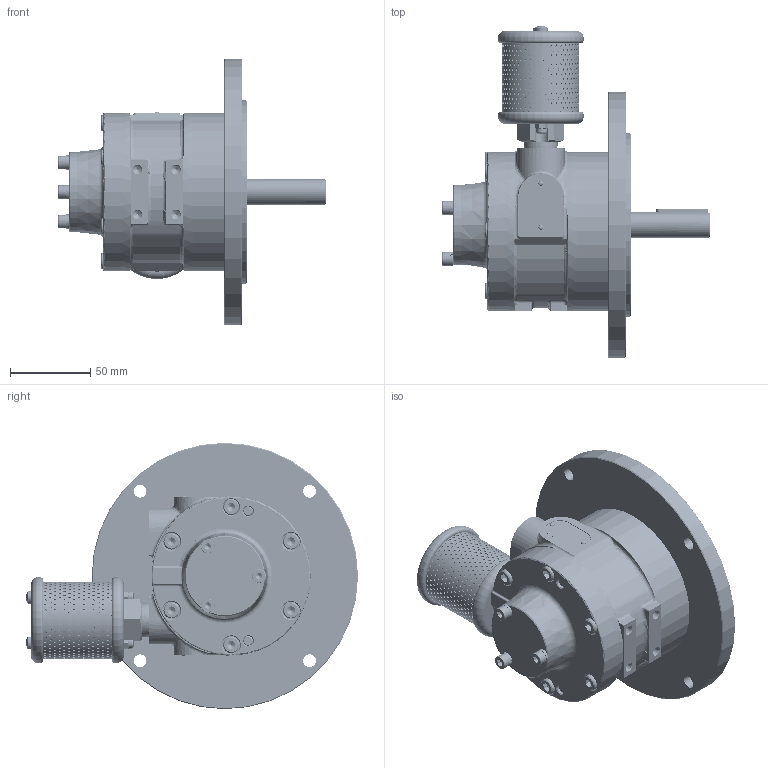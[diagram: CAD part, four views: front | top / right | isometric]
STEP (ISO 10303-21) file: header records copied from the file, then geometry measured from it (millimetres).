
FILE_DESCRIPTION (( 'STEP AP214' ), '1' );
FILE_NAME ('4VMN (Nema)_Solid 29-07-25.STEP', '2025-07-29T11:22:46', ( '' ), ( '' ), 'SwSTEP 2.0', 'SolidWorks 2017', '' );
FILE_SCHEMA (( 'AUTOMOTIVE_DESIGN' ));
Length unit declared in the file: millimetre
Products named in the file (2): 4VMN (Nema)_Solid 29-07-25
Bounding box: 166.63 x 206.95 x 166 mm (x, y, z)
Volume: 938419.3 mm3; surface area: 292880.7 mm2
Topology: 87 solids, 87 shells, 4984 faces, 12823 edges, 7962 vertices
Faces by surface type: cylinder 2561, cone 1103, plane 919, torus 261, bspline 126, sphere 14
Entity records: 280463 total; most frequent: CARTESIAN_POINT 106171, ORIENTED_EDGE 25366, DIRECTION 22644, EDGE_CURVE 12683, AXIS2_PLACEMENT_3D 8874, VERTEX_POINT 7962, EDGE_LOOP 6723, UNCERTAINTY_MEASURE_WITH_UNIT 5073
